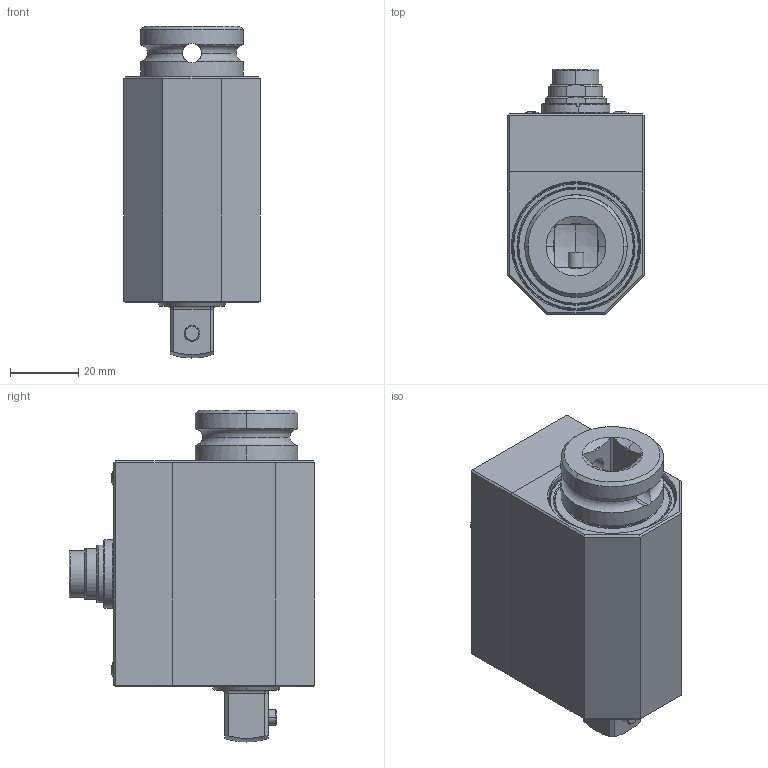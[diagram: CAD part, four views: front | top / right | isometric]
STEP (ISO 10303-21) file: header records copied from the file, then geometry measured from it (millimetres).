
FILE_DESCRIPTION (( 'STEP AP203' ), '1' );
FILE_NAME ('DRFN-1-2-w.STEP', '2014-03-20T06:46:51', ( 'nsi' ), ( '' ), 'SwSTEP 2.0', 'SolidWorks 2014', '' );
FILE_SCHEMA (( 'CONFIG_CONTROL_DESIGN' ));
Length unit declared in the file: millimetre
Products named in the file (1): DRFN-1-2-w
Bounding box: 40 x 71.8 x 97 mm (x, y, z)
Surface area: 26763 mm2 (no closed solid volume)
Topology: 0 solids, 21 shells, 327 faces, 923 edges, 617 vertices
Faces by surface type: plane 121, cylinder 86, cone 59, torus 55, sphere 6
Entity records: 11068 total; most frequent: CARTESIAN_POINT 2344, DIRECTION 1970, ORIENTED_EDGE 1610, EDGE_CURVE 923, AXIS2_PLACEMENT_3D 796, VERTEX_POINT 617, CIRCLE 468, EDGE_LOOP 380
